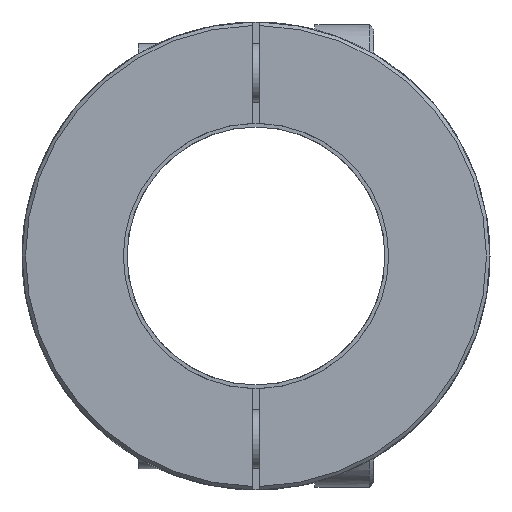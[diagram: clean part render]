
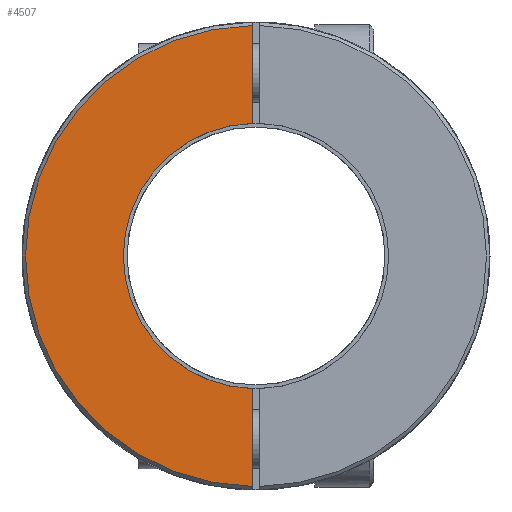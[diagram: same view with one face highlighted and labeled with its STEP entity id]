
A CAD part, front view. The second image highlights one B-rep face of the part: STEP entity #4507.
In plain terms, the highlighted planar face has unit normal (0, -1, 0).
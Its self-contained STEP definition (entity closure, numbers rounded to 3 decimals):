
#1=DIRECTION('',(0.,0.,-1.));
#2=VECTOR('',#1,13.273);
#3=CARTESIAN_POINT('',(-0.5,-75.,31.266));
#4=LINE('',#3,#2);
#5=DIRECTION('',(0.,0.,-1.));
#6=VECTOR('',#5,13.273);
#7=CARTESIAN_POINT('',(-0.5,-75.,-17.993));
#8=LINE('',#7,#6);
#72=CARTESIAN_POINT('',(0.,-75.,0.));
#73=DIRECTION('',(0.,1.,0.));
#74=DIRECTION('',(-0.028,0.,-1.));
#75=AXIS2_PLACEMENT_3D('',#72,#73,#74);
#3413=CARTESIAN_POINT('',(0.,-75.,0.));
#3414=DIRECTION('',(0.,-1.,0.));
#3415=DIRECTION('',(-0.016,0.,1.));
#3416=AXIS2_PLACEMENT_3D('',#3413,#3414,#3415);
#4137=CARTESIAN_POINT('',(-0.5,-75.,31.266));
#4138=CARTESIAN_POINT('',(-0.5,-75.,17.993));
#4139=VERTEX_POINT('',#4137);
#4140=VERTEX_POINT('',#4138);
#4141=CARTESIAN_POINT('',(-0.5,-75.,-17.993));
#4142=CARTESIAN_POINT('',(-0.5,-75.,-31.266));
#4143=VERTEX_POINT('',#4141);
#4144=VERTEX_POINT('',#4142);
#4492=CARTESIAN_POINT('',(0.,-75.,0.));
#4493=DIRECTION('',(0.,1.,0.));
#4494=DIRECTION('',(1.,0.,0.));
#4495=AXIS2_PLACEMENT_3D('',#4492,#4493,#4494);
#4496=PLANE('',#4495);
#4498=ORIENTED_EDGE('',*,*,#4497,.T.);
#4500=ORIENTED_EDGE('',*,*,#4499,.F.);
#4502=ORIENTED_EDGE('',*,*,#4501,.T.);
#4504=ORIENTED_EDGE('',*,*,#4503,.F.);
#4505=EDGE_LOOP('',(#4498,#4500,#4502,#4504));
#4506=FACE_OUTER_BOUND('',#4505,.F.);
#4507=ADVANCED_FACE('',(#4506),#4496,.F.);
#76=CIRCLE('',#75,18.);
#3417=CIRCLE('',#3416,31.27);
#4497=EDGE_CURVE('',#4139,#4140,#4,.T.);
#4499=EDGE_CURVE('',#4143,#4140,#76,.T.);
#4501=EDGE_CURVE('',#4143,#4144,#8,.T.);
#4503=EDGE_CURVE('',#4139,#4144,#3417,.T.);
